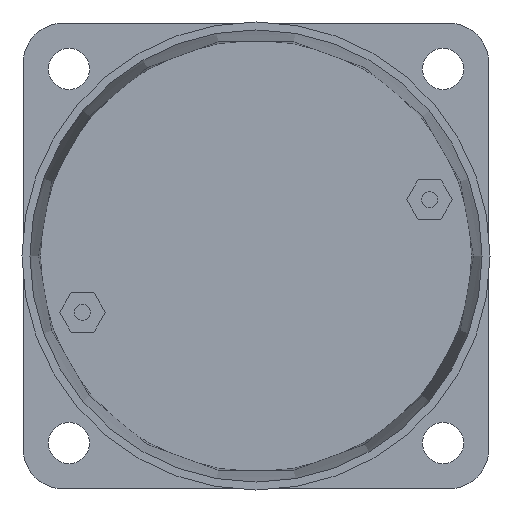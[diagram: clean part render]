
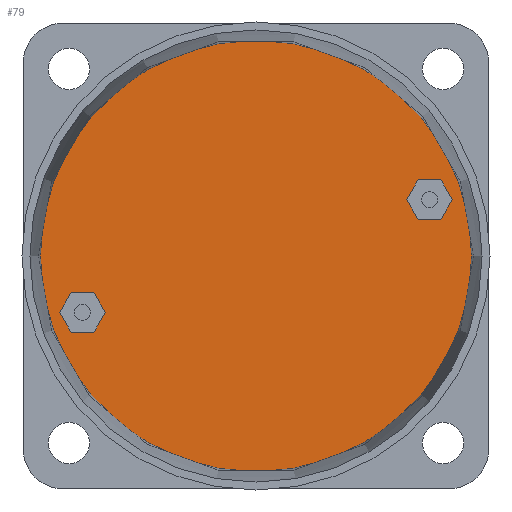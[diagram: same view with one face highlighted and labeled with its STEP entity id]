
A CAD part, left-side view. The second image highlights one B-rep face of the part: STEP entity #79.
In plain terms, the highlighted planar face has unit normal (-1, 0, 0).
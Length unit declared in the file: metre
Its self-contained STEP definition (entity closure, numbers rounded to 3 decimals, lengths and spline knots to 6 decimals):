
#79 = ADVANCED_FACE( '', ( #131, #132, #133 ), #134, .F. );
#131 = FACE_BOUND( '', #253, .T. );
#132 = FACE_BOUND( '', #254, .T. );
#133 = FACE_OUTER_BOUND( '', #255, .T. );
#134 = PLANE( '', #256 );
#253 = EDGE_LOOP( '', ( #395, #396, #397, #398, #399, #400 ) );
#254 = EDGE_LOOP( '', ( #401, #402, #403, #404, #405, #406 ) );
#255 = EDGE_LOOP( '', ( #407 ) );
#256 = AXIS2_PLACEMENT_3D( '', #408, #409, #410 );
#395 = ORIENTED_EDGE( '', *, *, #696, .T. );
#396 = ORIENTED_EDGE( '', *, *, #697, .T. );
#397 = ORIENTED_EDGE( '', *, *, #693, .T. );
#398 = ORIENTED_EDGE( '', *, *, #695, .T. );
#399 = ORIENTED_EDGE( '', *, *, #698, .T. );
#400 = ORIENTED_EDGE( '', *, *, #699, .T. );
#401 = ORIENTED_EDGE( '', *, *, #700, .T. );
#402 = ORIENTED_EDGE( '', *, *, #701, .T. );
#403 = ORIENTED_EDGE( '', *, *, #702, .T. );
#404 = ORIENTED_EDGE( '', *, *, #703, .T. );
#405 = ORIENTED_EDGE( '', *, *, #704, .T. );
#406 = ORIENTED_EDGE( '', *, *, #705, .T. );
#407 = ORIENTED_EDGE( '', *, *, #706, .F. );
#408 = CARTESIAN_POINT( '', ( -0.01125, 0.0295, 0. ) );
#409 = DIRECTION( '', ( 1., 0., 0. ) );
#410 = DIRECTION( '', ( 0., 0., -1. ) );
#693 = EDGE_CURVE( '', #789, #791, #793, .T. );
#695 = EDGE_CURVE( '', #791, #794, #796, .T. );
#696 = EDGE_CURVE( '', #797, #798, #799, .T. );
#697 = EDGE_CURVE( '', #798, #789, #800, .T. );
#698 = EDGE_CURVE( '', #794, #801, #802, .T. );
#699 = EDGE_CURVE( '', #801, #797, #803, .T. );
#700 = EDGE_CURVE( '', #804, #805, #806, .T. );
#701 = EDGE_CURVE( '', #805, #807, #808, .T. );
#702 = EDGE_CURVE( '', #807, #809, #810, .T. );
#703 = EDGE_CURVE( '', #809, #811, #812, .T. );
#704 = EDGE_CURVE( '', #811, #813, #814, .T. );
#705 = EDGE_CURVE( '', #813, #804, #815, .T. );
#706 = EDGE_CURVE( '', #816, #816, #817, .T. );
#789 = VERTEX_POINT( '', #952 );
#791 = VERTEX_POINT( '', #955 );
#793 = LINE( '', #958, #959 );
#794 = VERTEX_POINT( '', #960 );
#796 = LINE( '', #963, #964 );
#797 = VERTEX_POINT( '', #965 );
#798 = VERTEX_POINT( '', #966 );
#799 = LINE( '', #967, #968 );
#800 = LINE( '', #969, #970 );
#801 = VERTEX_POINT( '', #971 );
#802 = LINE( '', #972, #973 );
#803 = LINE( '', #974, #975 );
#804 = VERTEX_POINT( '', #976 );
#805 = VERTEX_POINT( '', #977 );
#806 = LINE( '', #978, #979 );
#807 = VERTEX_POINT( '', #980 );
#808 = LINE( '', #981, #982 );
#809 = VERTEX_POINT( '', #983 );
#810 = LINE( '', #984, #985 );
#811 = VERTEX_POINT( '', #986 );
#812 = LINE( '', #987, #988 );
#813 = VERTEX_POINT( '', #989 );
#814 = LINE( '', #990, #991 );
#815 = LINE( '', #992, #993 );
#816 = VERTEX_POINT( '', #994 );
#817 = CIRCLE( '', #995, 0.027191 );
#952 = CARTESIAN_POINT( '', ( -0.01125, 0.006182, 0.004607 ) );
#955 = CARTESIAN_POINT( '', ( -0.01125, 0.009069, 0.004607 ) );
#958 = CARTESIAN_POINT( '', ( -0.01125, 0.006182, 0.004607 ) );
#959 = VECTOR( '', #1154, 1. );
#960 = CARTESIAN_POINT( '', ( -0.01125, 0.010512, 0.007107 ) );
#963 = CARTESIAN_POINT( '', ( -0.01125, 0.009069, 0.004607 ) );
#964 = VECTOR( '', #1156, 1. );
#965 = CARTESIAN_POINT( '', ( -0.01125, 0.006182, 0.009607 ) );
#966 = CARTESIAN_POINT( '', ( -0.01125, 0.004739, 0.007107 ) );
#967 = CARTESIAN_POINT( '', ( -0.01125, 0.006182, 0.009607 ) );
#968 = VECTOR( '', #1157, 1. );
#969 = CARTESIAN_POINT( '', ( -0.01125, 0.004739, 0.007107 ) );
#970 = VECTOR( '', #1158, 1. );
#971 = CARTESIAN_POINT( '', ( -0.01125, 0.009069, 0.009607 ) );
#972 = CARTESIAN_POINT( '', ( -0.01125, 0.010512, 0.007107 ) );
#973 = VECTOR( '', #1159, 1. );
#974 = CARTESIAN_POINT( '', ( -0.01125, 0.009069, 0.009607 ) );
#975 = VECTOR( '', #1160, 1. );
#976 = CARTESIAN_POINT( '', ( -0.01125, 0.052818, -0.009607 ) );
#977 = CARTESIAN_POINT( '', ( -0.01125, 0.054261, -0.007107 ) );
#978 = CARTESIAN_POINT( '', ( -0.01125, 0.052818, -0.009607 ) );
#979 = VECTOR( '', #1161, 1. );
#980 = CARTESIAN_POINT( '', ( -0.01125, 0.052818, -0.004607 ) );
#981 = CARTESIAN_POINT( '', ( -0.01125, 0.054261, -0.007107 ) );
#982 = VECTOR( '', #1162, 1. );
#983 = CARTESIAN_POINT( '', ( -0.01125, 0.049931, -0.004607 ) );
#984 = CARTESIAN_POINT( '', ( -0.01125, 0.052818, -0.004607 ) );
#985 = VECTOR( '', #1163, 1. );
#986 = CARTESIAN_POINT( '', ( -0.01125, 0.048488, -0.007107 ) );
#987 = CARTESIAN_POINT( '', ( -0.01125, 0.049931, -0.004607 ) );
#988 = VECTOR( '', #1164, 1. );
#989 = CARTESIAN_POINT( '', ( -0.01125, 0.049931, -0.009607 ) );
#990 = CARTESIAN_POINT( '', ( -0.01125, 0.048488, -0.007107 ) );
#991 = VECTOR( '', #1165, 1. );
#992 = CARTESIAN_POINT( '', ( -0.01125, 0.049931, -0.009607 ) );
#993 = VECTOR( '', #1166, 1. );
#994 = CARTESIAN_POINT( '', ( -0.01125, 0.0295, -0.027191 ) );
#995 = AXIS2_PLACEMENT_3D( '', #1167, #1168, #1169 );
#1154 = DIRECTION( '', ( 0., 1., 0. ) );
#1156 = DIRECTION( '', ( 0., 0.5, 0.866 ) );
#1157 = DIRECTION( '', ( 0., -0.5, -0.866 ) );
#1158 = DIRECTION( '', ( 0., 0.5, -0.866 ) );
#1159 = DIRECTION( '', ( 0., -0.5, 0.866 ) );
#1160 = DIRECTION( '', ( 0., -1., 0. ) );
#1161 = DIRECTION( '', ( 0., 0.5, 0.866 ) );
#1162 = DIRECTION( '', ( 0., -0.5, 0.866 ) );
#1163 = DIRECTION( '', ( 0., -1., 0. ) );
#1164 = DIRECTION( '', ( 0., -0.5, -0.866 ) );
#1165 = DIRECTION( '', ( 0., 0.5, -0.866 ) );
#1166 = DIRECTION( '', ( 0., 1., 0. ) );
#1167 = CARTESIAN_POINT( '', ( -0.01125, 0.0295, 0. ) );
#1168 = DIRECTION( '', ( 1., 0., 0. ) );
#1169 = DIRECTION( '', ( 0., 0., -1. ) );
